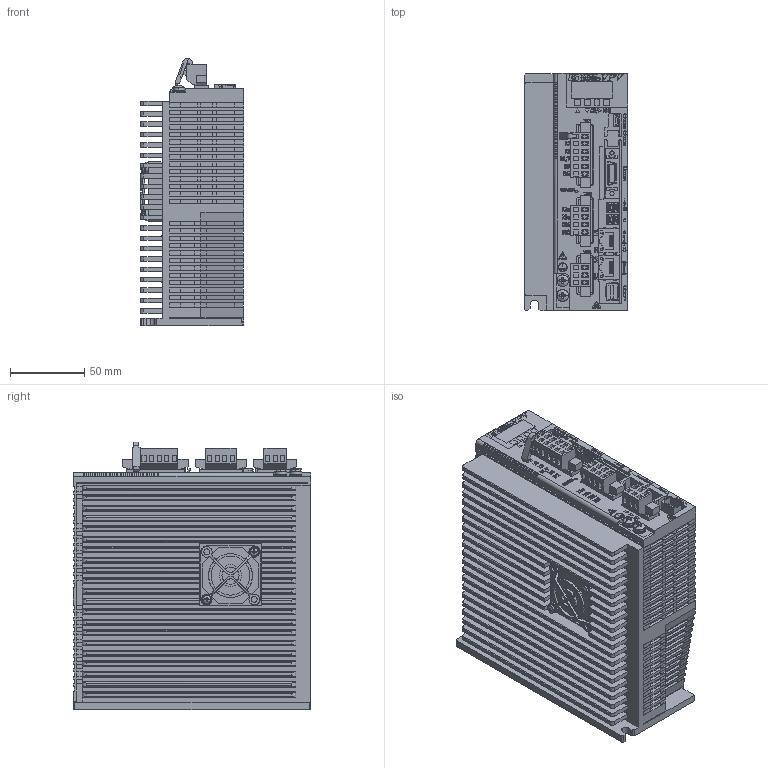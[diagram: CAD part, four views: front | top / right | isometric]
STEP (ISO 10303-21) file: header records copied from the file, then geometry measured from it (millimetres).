
FILE_DESCRIPTION (( 'STEP AP203' ), '1' );
FILE_NAME ('NCR-VD_Series(801)#SX-008590-00-01.STEP', '2026-05-28T00:19:56', ( '' ), ( '' ), 'SwSTEP 2.0', 'SolidWorks 2024', '' );
FILE_SCHEMA (( 'CONFIG_CONTROL_DESIGN' ));
Products named in the file (1): NCR-VD_Series(801)#SX-008590-00-01
Bounding box: 70 x 160 x 180.47 mm (x, y, z)
Volume: 1500146.7 mm3; surface area: 246008 mm2
Topology: 5 solids, 23 shells, 7263 faces, 20495 edges, 13555 vertices
Faces by surface type: plane 6020, cylinder 649, bspline 528, cone 42, torus 16, sphere 8
Entity records: 256177 total; most frequent: CARTESIAN_POINT 70604, ORIENTED_EDGE 40974, DIRECTION 34155, EDGE_CURVE 20487, LINE 17745, VECTOR 17745, VERTEX_POINT 13555, AXIS2_PLACEMENT_3D 8205
